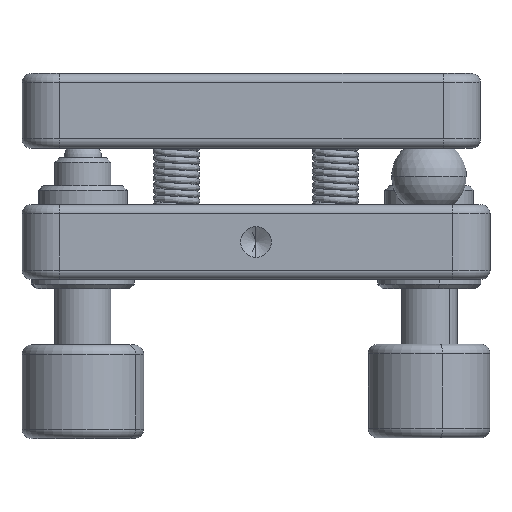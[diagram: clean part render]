
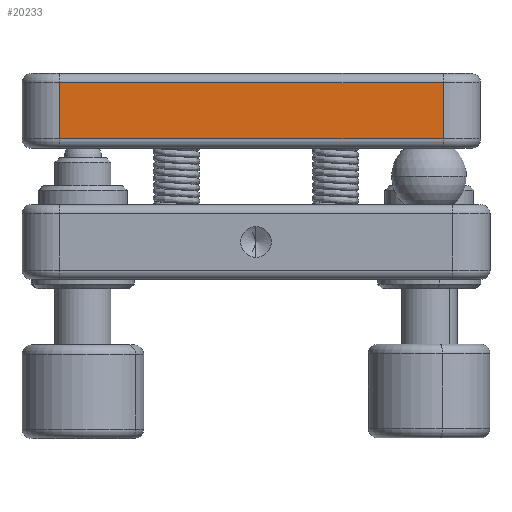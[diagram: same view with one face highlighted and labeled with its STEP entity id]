
A CAD part, front view. The second image highlights one B-rep face of the part: STEP entity #20233.
In plain terms, the highlighted planar face has unit normal (0, -1, 0).
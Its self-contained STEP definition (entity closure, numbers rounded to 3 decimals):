
#819 = CARTESIAN_POINT ( 'NONE',  ( -24.576, -26.45, 18. ) ) ;
#1981 = DIRECTION ( 'NONE',  ( 1., 0., 0. ) ) ;
#2657 = PLANE ( 'NONE',  #10880 ) ;
#2739 = DIRECTION ( 'NONE',  ( 0., 1., 0. ) ) ;
#3884 = CARTESIAN_POINT ( 'NONE',  ( 20.424, -26.45, 18. ) ) ;
#5749 = VERTEX_POINT ( 'NONE', #8934 ) ;
#5838 = ORIENTED_EDGE ( 'NONE', *, *, #22652, .T. ) ;
#6413 = EDGE_LOOP ( 'NONE', ( #5838, #8337, #10322, #20514 ) ) ;
#7224 = VECTOR ( 'NONE', #15160, 1000. ) ;
#8126 = CARTESIAN_POINT ( 'NONE',  ( -20.576, -26.45, 17. ) ) ;
#8337 = ORIENTED_EDGE ( 'NONE', *, *, #17826, .T. ) ;
#8934 = CARTESIAN_POINT ( 'NONE',  ( 20.424, -26.45, 17. ) ) ;
#9575 = DIRECTION ( 'NONE',  ( -1., 0., 0. ) ) ;
#10322 = ORIENTED_EDGE ( 'NONE', *, *, #20000, .T. ) ;
#10880 = AXIS2_PLACEMENT_3D ( 'NONE', #819, #2739, #15714 ) ;
#11168 = DIRECTION ( 'NONE',  ( 0., 0., -1. ) ) ;
#11214 = CARTESIAN_POINT ( 'NONE',  ( -24.576, -26.45, 17. ) ) ;
#12211 = LINE ( 'NONE', #3884, #7224 ) ;
#12461 = FACE_OUTER_BOUND ( 'NONE', #6413, .T. ) ;
#12812 = CARTESIAN_POINT ( 'NONE',  ( -20.576, -26.45, 18. ) ) ;
#13003 = VECTOR ( 'NONE', #11168, 1000. ) ;
#13167 = CARTESIAN_POINT ( 'NONE',  ( 20.424, -26.45, 11. ) ) ;
#14153 = LINE ( 'NONE', #12812, #13003 ) ;
#14498 = CARTESIAN_POINT ( 'NONE',  ( -20.576, -26.45, 11. ) ) ;
#14860 = LINE ( 'NONE', #13167, #21845 ) ;
#15160 = DIRECTION ( 'NONE',  ( 0., 0., 1. ) ) ;
#15714 = DIRECTION ( 'NONE',  ( 0., 0., 1. ) ) ;
#16453 = LINE ( 'NONE', #11214, #18529 ) ;
#17826 = EDGE_CURVE ( 'NONE', #20540, #19592, #14860, .T. ) ;
#18529 = VECTOR ( 'NONE', #9575, 1000. ) ;
#19592 = VERTEX_POINT ( 'NONE', #23275 ) ;
#20000 = EDGE_CURVE ( 'NONE', #19592, #5749, #12211, .T. ) ;
#20233 = ADVANCED_FACE ( 'NONE', ( #12461 ), #2657, .F. ) ;
#20514 = ORIENTED_EDGE ( 'NONE', *, *, #21517, .T. ) ;
#20540 = VERTEX_POINT ( 'NONE', #14498 ) ;
#21124 = VERTEX_POINT ( 'NONE', #8126 ) ;
#21517 = EDGE_CURVE ( 'NONE', #5749, #21124, #16453, .T. ) ;
#21845 = VECTOR ( 'NONE', #1981, 1000. ) ;
#22652 = EDGE_CURVE ( 'NONE', #21124, #20540, #14153, .T. ) ;
#23275 = CARTESIAN_POINT ( 'NONE',  ( 20.424, -26.45, 11. ) ) ;
